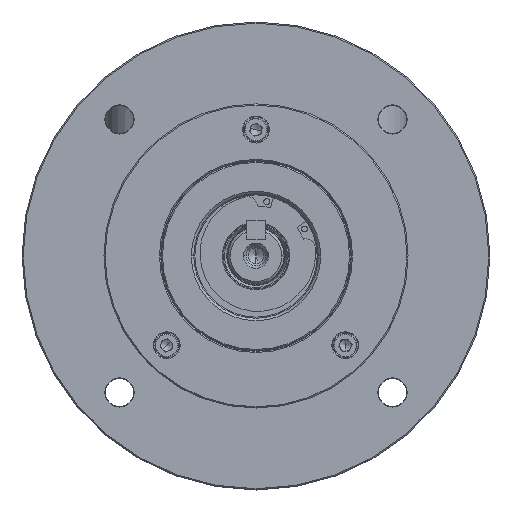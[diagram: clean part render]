
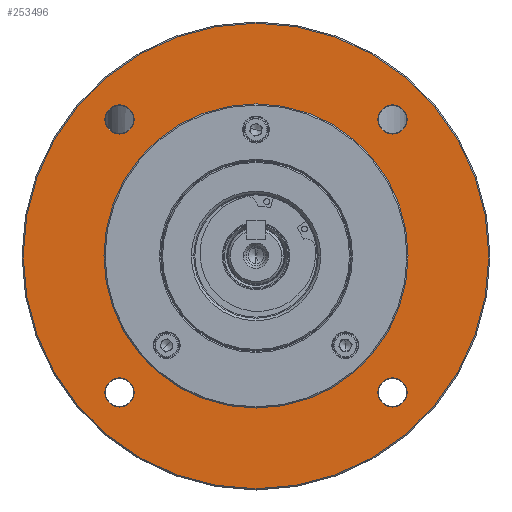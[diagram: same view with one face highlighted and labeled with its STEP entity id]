
A CAD part, top view. The second image highlights one B-rep face of the part: STEP entity #253496.
In plain terms, the highlighted planar face has unit normal (0, 0, 1).
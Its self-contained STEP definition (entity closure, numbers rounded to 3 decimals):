
#7281 = CARTESIAN_POINT ( 'NONE',  ( -58.336, 64.336, 95.95 ) ) ;
#7755 = AXIS2_PLACEMENT_3D ( 'NONE', #111120, #321542, #36257 ) ;
#11482 = AXIS2_PLACEMENT_3D ( 'NONE', #258234, #228809, #178933 ) ;
#14294 = EDGE_LOOP ( 'NONE', ( #149560, #301572 ) ) ;
#15852 = CARTESIAN_POINT ( 'NONE',  ( -64.586, -52.336, 95.95 ) ) ;
#24974 = CARTESIAN_POINT ( 'NONE',  ( 58.336, 64.336, 95.95 ) ) ;
#31452 = ORIENTED_EDGE ( 'NONE', *, *, #183801, .F. ) ;
#31778 = CIRCLE ( 'NONE', #214446, 65. ) ;
#34565 = FACE_BOUND ( 'NONE', #128237, .T. ) ;
#36257 = DIRECTION ( 'NONE',  ( 0., 1., 0. ) ) ;
#37400 = AXIS2_PLACEMENT_3D ( 'NONE', #102687, #47294, #177433 ) ;
#39832 = VERTEX_POINT ( 'NONE', #264348 ) ;
#42049 = CARTESIAN_POINT ( 'NONE',  ( -58.336, 64.336, 95.95 ) ) ;
#47294 = DIRECTION ( 'NONE',  ( 0., 0., -1. ) ) ;
#49279 = CARTESIAN_POINT ( 'NONE',  ( 52.086, 64.336, 95.95 ) ) ;
#53068 = VERTEX_POINT ( 'NONE', #84016 ) ;
#53420 = CARTESIAN_POINT ( 'NONE',  ( 58.336, -52.336, 95.95 ) ) ;
#55543 = DIRECTION ( 'NONE',  ( 0., -1., 0. ) ) ;
#59665 = AXIS2_PLACEMENT_3D ( 'NONE', #81432, #288684, #133559 ) ;
#60413 = ORIENTED_EDGE ( 'NONE', *, *, #251277, .T. ) ;
#60945 = AXIS2_PLACEMENT_3D ( 'NONE', #153694, #335970, #180801 ) ;
#65568 = EDGE_CURVE ( 'NONE', #211728, #69852, #151482, .T. ) ;
#65596 = EDGE_LOOP ( 'NONE', ( #217882, #60413 ) ) ;
#66987 = AXIS2_PLACEMENT_3D ( 'NONE', #294913, #86524, #139754 ) ;
#66997 = FACE_OUTER_BOUND ( 'NONE', #330070, .T. ) ;
#68567 = EDGE_CURVE ( 'NONE', #201337, #114555, #283076, .T. ) ;
#69852 = VERTEX_POINT ( 'NONE', #207409 ) ;
#76832 = CIRCLE ( 'NONE', #66987, 6.25 ) ;
#80865 = EDGE_LOOP ( 'NONE', ( #241173, #212086 ) ) ;
#81432 = CARTESIAN_POINT ( 'NONE',  ( 0., 71., 95.95 ) ) ;
#84016 = CARTESIAN_POINT ( 'NONE',  ( 52.086, -52.336, 95.95 ) ) ;
#86524 = DIRECTION ( 'NONE',  ( 0., 0., -1. ) ) ;
#88270 = EDGE_CURVE ( 'NONE', #203870, #306616, #31778, .T. ) ;
#91355 = FACE_BOUND ( 'NONE', #14294, .T. ) ;
#95021 = CARTESIAN_POINT ( 'NONE',  ( 0., 71., 95.95 ) ) ;
#95551 = CARTESIAN_POINT ( 'NONE',  ( 0., 6., 95.95 ) ) ;
#96144 = CIRCLE ( 'NONE', #11482, 6.25 ) ;
#97205 = DIRECTION ( 'NONE',  ( 0., -1., 0. ) ) ;
#101637 = EDGE_CURVE ( 'NONE', #114555, #201337, #96144, .T. ) ;
#102168 = DIRECTION ( 'NONE',  ( 0., -1., 0. ) ) ;
#102687 = CARTESIAN_POINT ( 'NONE',  ( 58.336, -52.336, 95.95 ) ) ;
#106670 = DIRECTION ( 'NONE',  ( 0., 0., -1. ) ) ;
#106818 = AXIS2_PLACEMENT_3D ( 'NONE', #42049, #271994, #168920 ) ;
#111120 = CARTESIAN_POINT ( 'NONE',  ( 0., 6., 95.95 ) ) ;
#114555 = VERTEX_POINT ( 'NONE', #49279 ) ;
#117542 = ORIENTED_EDGE ( 'NONE', *, *, #68567, .T. ) ;
#121080 = DIRECTION ( 'NONE',  ( 0., 0., -1. ) ) ;
#121269 = EDGE_CURVE ( 'NONE', #228050, #53068, #265832, .T. ) ;
#124497 = DIRECTION ( 'NONE',  ( 0., 0., -1. ) ) ;
#127833 = DIRECTION ( 'NONE',  ( 0., 1., 0. ) ) ;
#128237 = EDGE_LOOP ( 'NONE', ( #139587, #302664 ) ) ;
#132435 = CARTESIAN_POINT ( 'NONE',  ( 0., -59., 95.95 ) ) ;
#133559 = DIRECTION ( 'NONE',  ( 0., -1., 0. ) ) ;
#137958 = CARTESIAN_POINT ( 'NONE',  ( -52.086, -52.336, 95.95 ) ) ;
#139587 = ORIENTED_EDGE ( 'NONE', *, *, #262411, .T. ) ;
#139754 = DIRECTION ( 'NONE',  ( 0., -1., 0. ) ) ;
#145308 = VERTEX_POINT ( 'NONE', #137958 ) ;
#149560 = ORIENTED_EDGE ( 'NONE', *, *, #191456, .T. ) ;
#151482 = CIRCLE ( 'NONE', #327404, 6.25 ) ;
#153694 = CARTESIAN_POINT ( 'NONE',  ( 0., 6., 95.95 ) ) ;
#155058 = PLANE ( 'NONE',  #59665 ) ;
#161401 = CARTESIAN_POINT ( 'NONE',  ( -64.586, 64.336, 95.95 ) ) ;
#168920 = DIRECTION ( 'NONE',  ( 0., -1., 0. ) ) ;
#174169 = CARTESIAN_POINT ( 'NONE',  ( -58.336, -52.336, 95.95 ) ) ;
#177433 = DIRECTION ( 'NONE',  ( 0., -1., 0. ) ) ;
#178933 = DIRECTION ( 'NONE',  ( 0., -1., 0. ) ) ;
#180801 = DIRECTION ( 'NONE',  ( 0., 1., 0. ) ) ;
#181566 = CARTESIAN_POINT ( 'NONE',  ( 64.586, -52.336, 95.95 ) ) ;
#183801 = EDGE_CURVE ( 'NONE', #199446, #39832, #254762, .T. ) ;
#184573 = DIRECTION ( 'NONE',  ( 0., 0., -1. ) ) ;
#187348 = VERTEX_POINT ( 'NONE', #15852 ) ;
#189039 = AXIS2_PLACEMENT_3D ( 'NONE', #24974, #184573, #55543 ) ;
#191456 = EDGE_CURVE ( 'NONE', #306616, #203870, #274333, .T. ) ;
#199446 = VERTEX_POINT ( 'NONE', #254603 ) ;
#201337 = VERTEX_POINT ( 'NONE', #211474 ) ;
#203866 = ORIENTED_EDGE ( 'NONE', *, *, #101637, .T. ) ;
#203870 = VERTEX_POINT ( 'NONE', #132435 ) ;
#203995 = EDGE_LOOP ( 'NONE', ( #117542, #203866 ) ) ;
#204741 = FACE_BOUND ( 'NONE', #80865, .T. ) ;
#205851 = EDGE_CURVE ( 'NONE', #39832, #199446, #267916, .T. ) ;
#207409 = CARTESIAN_POINT ( 'NONE',  ( -52.086, 64.336, 95.95 ) ) ;
#208532 = ORIENTED_EDGE ( 'NONE', *, *, #205851, .F. ) ;
#211474 = CARTESIAN_POINT ( 'NONE',  ( 64.586, 64.336, 95.95 ) ) ;
#211728 = VERTEX_POINT ( 'NONE', #161401 ) ;
#212086 = ORIENTED_EDGE ( 'NONE', *, *, #65568, .T. ) ;
#214446 = AXIS2_PLACEMENT_3D ( 'NONE', #95551, #276738, #328796 ) ;
#217882 = ORIENTED_EDGE ( 'NONE', *, *, #121269, .T. ) ;
#218839 = AXIS2_PLACEMENT_3D ( 'NONE', #174169, #121080, #97205 ) ;
#220446 = AXIS2_PLACEMENT_3D ( 'NONE', #279560, #124497, #127833 ) ;
#228050 = VERTEX_POINT ( 'NONE', #181566 ) ;
#228809 = DIRECTION ( 'NONE',  ( 0., 0., -1. ) ) ;
#229148 = FACE_BOUND ( 'NONE', #65596, .T. ) ;
#236424 = EDGE_CURVE ( 'NONE', #187348, #145308, #315142, .T. ) ;
#241173 = ORIENTED_EDGE ( 'NONE', *, *, #246213, .T. ) ;
#246213 = EDGE_CURVE ( 'NONE', #69852, #211728, #275877, .T. ) ;
#249296 = FACE_BOUND ( 'NONE', #203995, .T. ) ;
#249558 = CIRCLE ( 'NONE', #293807, 6.25 ) ;
#251277 = EDGE_CURVE ( 'NONE', #53068, #228050, #249558, .T. ) ;
#253496 = ADVANCED_FACE ( 'NONE', ( #229148, #34565, #249296, #204741, #91355, #66997 ), #155058, .T. ) ;
#254603 = CARTESIAN_POINT ( 'NONE',  ( 0., -93.5, 95.95 ) ) ;
#254762 = CIRCLE ( 'NONE', #220446, 99.5 ) ;
#258234 = CARTESIAN_POINT ( 'NONE',  ( 58.336, 64.336, 95.95 ) ) ;
#262411 = EDGE_CURVE ( 'NONE', #145308, #187348, #76832, .T. ) ;
#264348 = CARTESIAN_POINT ( 'NONE',  ( 0., 105.5, 95.95 ) ) ;
#265537 = DIRECTION ( 'NONE',  ( 0., 0., -1. ) ) ;
#265832 = CIRCLE ( 'NONE', #37400, 6.25 ) ;
#267916 = CIRCLE ( 'NONE', #7755, 99.5 ) ;
#271994 = DIRECTION ( 'NONE',  ( 0., 0., -1. ) ) ;
#274333 = CIRCLE ( 'NONE', #60945, 65. ) ;
#275877 = CIRCLE ( 'NONE', #106818, 6.25 ) ;
#276738 = DIRECTION ( 'NONE',  ( 0., 0., -1. ) ) ;
#279560 = CARTESIAN_POINT ( 'NONE',  ( 0., 6., 95.95 ) ) ;
#283076 = CIRCLE ( 'NONE', #189039, 6.25 ) ;
#288684 = DIRECTION ( 'NONE',  ( 0., 0., 1. ) ) ;
#292686 = DIRECTION ( 'NONE',  ( 0., -1., 0. ) ) ;
#293807 = AXIS2_PLACEMENT_3D ( 'NONE', #53420, #106670, #102168 ) ;
#294913 = CARTESIAN_POINT ( 'NONE',  ( -58.336, -52.336, 95.95 ) ) ;
#301572 = ORIENTED_EDGE ( 'NONE', *, *, #88270, .T. ) ;
#302664 = ORIENTED_EDGE ( 'NONE', *, *, #236424, .T. ) ;
#306616 = VERTEX_POINT ( 'NONE', #95021 ) ;
#315142 = CIRCLE ( 'NONE', #218839, 6.25 ) ;
#321542 = DIRECTION ( 'NONE',  ( 0., 0., -1. ) ) ;
#327404 = AXIS2_PLACEMENT_3D ( 'NONE', #7281, #265537, #292686 ) ;
#328796 = DIRECTION ( 'NONE',  ( 0., 1., 0. ) ) ;
#330070 = EDGE_LOOP ( 'NONE', ( #208532, #31452 ) ) ;
#335970 = DIRECTION ( 'NONE',  ( 0., 0., -1. ) ) ;
